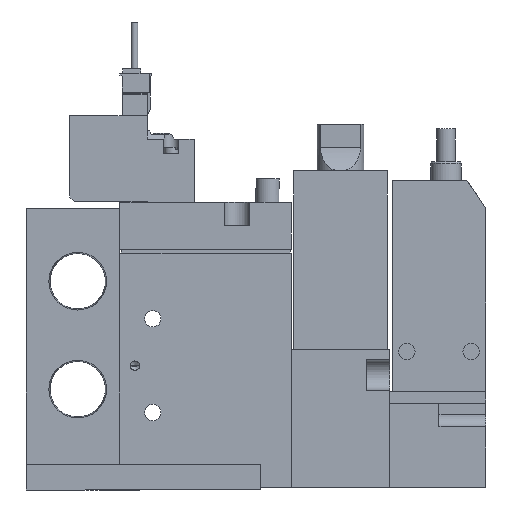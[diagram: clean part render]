
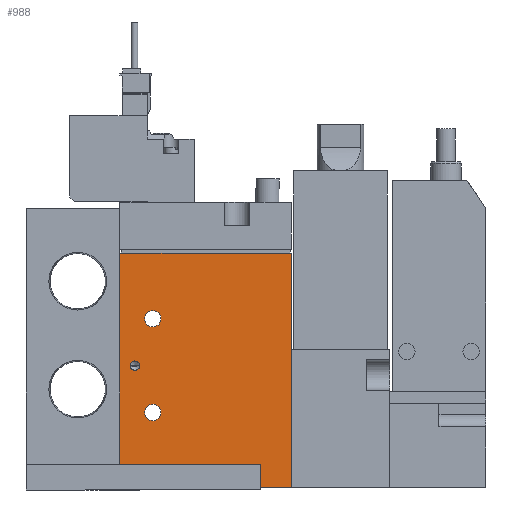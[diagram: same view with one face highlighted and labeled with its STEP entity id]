
A CAD part, left-side view. The second image highlights one B-rep face of the part: STEP entity #988.
In plain terms, the highlighted planar face has unit normal (-1, 0, 0) as drawn and (1, 0, 0) by its records, which use the part's own axes.
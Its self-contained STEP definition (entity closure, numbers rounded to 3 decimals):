
#988=ADVANCED_FACE('',(#1437,#1438,#1439,#1440),#1441,.F.);
#1437=FACE_BOUND('',#2424,.T.);
#1438=FACE_BOUND('',#2425,.T.);
#1439=FACE_BOUND('',#2426,.T.);
#1440=FACE_OUTER_BOUND('',#2427,.T.);
#1441=PLANE('',#2428);
#2424=EDGE_LOOP('',(#3531));
#2425=EDGE_LOOP('',(#3532));
#2426=EDGE_LOOP('',(#3533));
#2427=EDGE_LOOP('',(#3534,#3535,#3536,#3537));
#2428=AXIS2_PLACEMENT_3D('',#3538,#3539,#3540);
#3531=ORIENTED_EDGE('',*,*,#6582,.F.);
#3532=ORIENTED_EDGE('',*,*,#6600,.T.);
#3533=ORIENTED_EDGE('',*,*,#6601,.T.);
#3534=ORIENTED_EDGE('',*,*,#6599,.T.);
#3535=ORIENTED_EDGE('',*,*,#6590,.F.);
#3536=ORIENTED_EDGE('',*,*,#6602,.F.);
#3537=ORIENTED_EDGE('',*,*,#6584,.T.);
#3538=CARTESIAN_POINT('',(8.5,-19.444,50.0));
#3539=DIRECTION('',(-1.0,0.0,0.0));
#3540=DIRECTION('',(0.0,0.0,1.0));
#6582=EDGE_CURVE('',#7585,#7585,#7586,.T.);
#6584=EDGE_CURVE('',#7590,#7588,#7591,.T.);
#6590=EDGE_CURVE('',#7600,#7595,#7602,.T.);
#6599=EDGE_CURVE('',#7588,#7595,#7617,.T.);
#6600=EDGE_CURVE('',#7618,#7618,#7619,.T.);
#6601=EDGE_CURVE('',#7620,#7620,#7621,.T.);
#6602=EDGE_CURVE('',#7590,#7600,#7622,.T.);
#7585=VERTEX_POINT('',#9333);
#7586=CIRCLE('',#9334,1.0);
#7588=VERTEX_POINT('',#9336);
#7590=VERTEX_POINT('',#9339);
#7591=LINE('',#9340,#9341);
#7595=VERTEX_POINT('',#9347);
#7600=VERTEX_POINT('',#9354);
#7602=LINE('',#9357,#9358);
#7617=LINE('',#9375,#9376);
#7618=VERTEX_POINT('',#9377);
#7619=CIRCLE('',#9378,1.75);
#7620=VERTEX_POINT('',#9379);
#7621=CIRCLE('',#9380,1.75);
#7622=LINE('',#9381,#9382);
#9333=CARTESIAN_POINT('',(8.5,-17.244,26.0));
#9334=AXIS2_PLACEMENT_3D('',#11698,#11699,#11700);
#9336=CARTESIAN_POINT('',(8.5,-19.444,0.0));
#9339=CARTESIAN_POINT('',(8.5,-19.444,50.0));
#9340=CARTESIAN_POINT('',(8.5,-19.444,50.0));
#9341=VECTOR('',#11702,1.0);
#9347=CARTESIAN_POINT('',(8.5,17.056,0.0));
#9354=CARTESIAN_POINT('',(8.5,17.056,50.0));
#9357=CARTESIAN_POINT('',(8.5,17.056,50.0));
#9358=VECTOR('',#11708,1.0);
#9375=CARTESIAN_POINT('',(8.5,-19.444,0.0));
#9376=VECTOR('',#11729,1.0);
#9377=CARTESIAN_POINT('',(8.5,-10.694,36.0));
#9378=AXIS2_PLACEMENT_3D('',#11730,#11731,#11732);
#9379=CARTESIAN_POINT('',(8.5,-10.694,16.0));
#9380=AXIS2_PLACEMENT_3D('',#11733,#11734,#11735);
#9381=CARTESIAN_POINT('',(8.5,-19.444,50.0));
#9382=VECTOR('',#11736,1.0);
#11698=CARTESIAN_POINT('',(8.5,-16.244,26.0));
#11699=DIRECTION('',(1.0,0.,0.0));
#11700=DIRECTION('',(0.,-1.0,0.0));
#11702=DIRECTION('',(0.0,0.0,-1.0));
#11708=DIRECTION('',(0.0,0.0,-1.0));
#11729=DIRECTION('',(0.0,1.0,0.0));
#11730=CARTESIAN_POINT('',(8.5,-12.444,36.0));
#11731=DIRECTION('',(-1.0,0.0,0.0));
#11732=DIRECTION('',(0.0,1.0,0.0));
#11733=CARTESIAN_POINT('',(8.5,-12.444,16.0));
#11734=DIRECTION('',(-1.0,0.0,0.0));
#11735=DIRECTION('',(0.0,1.0,0.0));
#11736=DIRECTION('',(0.0,1.0,0.0));
